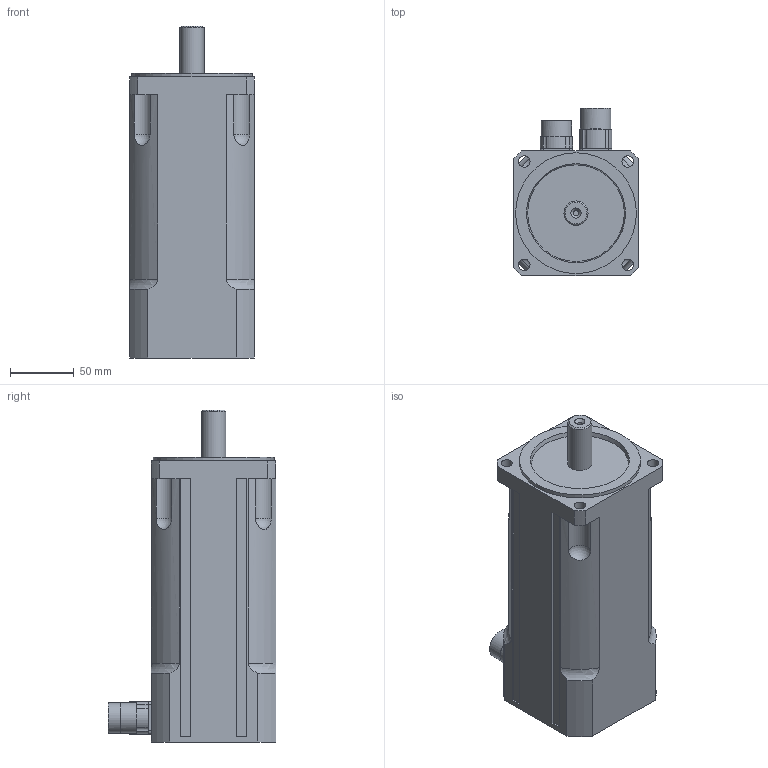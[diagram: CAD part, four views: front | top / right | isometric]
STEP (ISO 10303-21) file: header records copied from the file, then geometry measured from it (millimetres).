
FILE_DESCRIPTION((''),'2;1');
FILE_NAME('V:\katalog\3D_modely\T\Ruzne\STEP\T4000 00 Z_0750.stp','2011-06-10T09:57:47',('oslejsek'),(''),'Autodesk Inventor 10','Autodesk Inventor 10','');
FILE_SCHEMA(('AUTOMOTIVE_DESIGN { 1 0 10303 214 1 1 1 1 }'));
Length unit declared in the file: millimetre
Products named in the file (4): T4000 00 Z_0750; T4000 00_0750; Konektor_rovny_mot; Konektor_rovny_res
Assembly tree (3 placements, depth 2):
  T4000 00 Z_0750
    T4000 00_0750
    Konektor_rovny_mot
    Konektor_rovny_res
Bounding box: 98 x 132 x 261 mm (x, y, z)
Volume: 1979376.1 mm3; surface area: 116298.9 mm2
Topology: 3 solids, 3 shells, 144 faces, 365 edges, 237 vertices
Faces by surface type: plane 60, cylinder 54, bspline 20, sphere 4, torus 4, cone 2
Full cylindrical faces by diameter (mm): 2.7 x8, 19 x1, 20 x2, 24 x2, 95 x1
Entity records: 4831 total; most frequent: CARTESIAN_POINT 1291, DIRECTION 750, ORIENTED_EDGE 664, EDGE_CURVE 332, AXIS2_PLACEMENT_3D 299, VERTEX_POINT 228, EDGE_LOOP 206, CIRCLE 168
